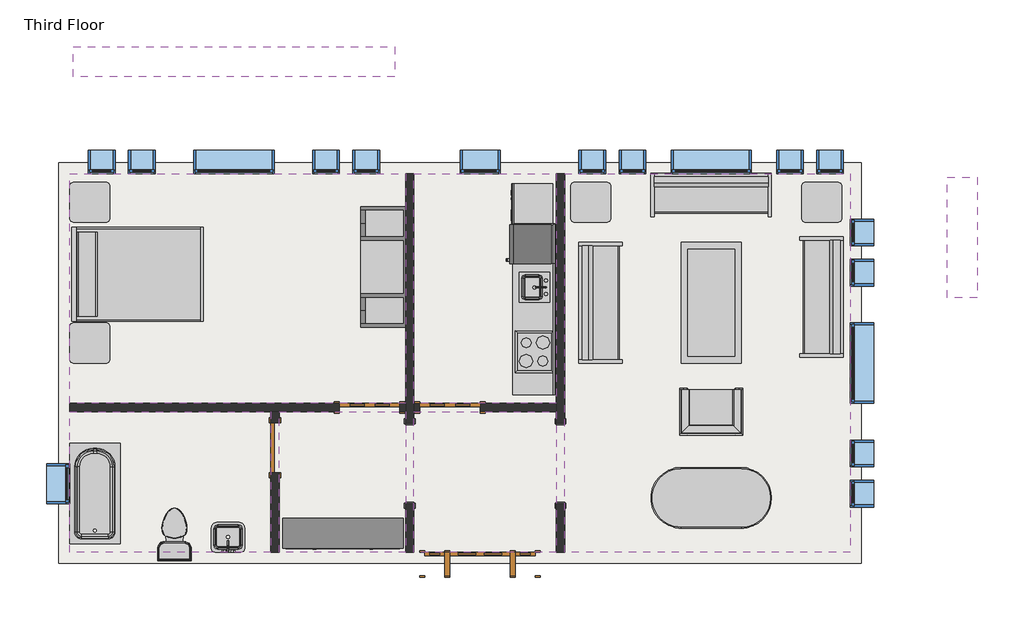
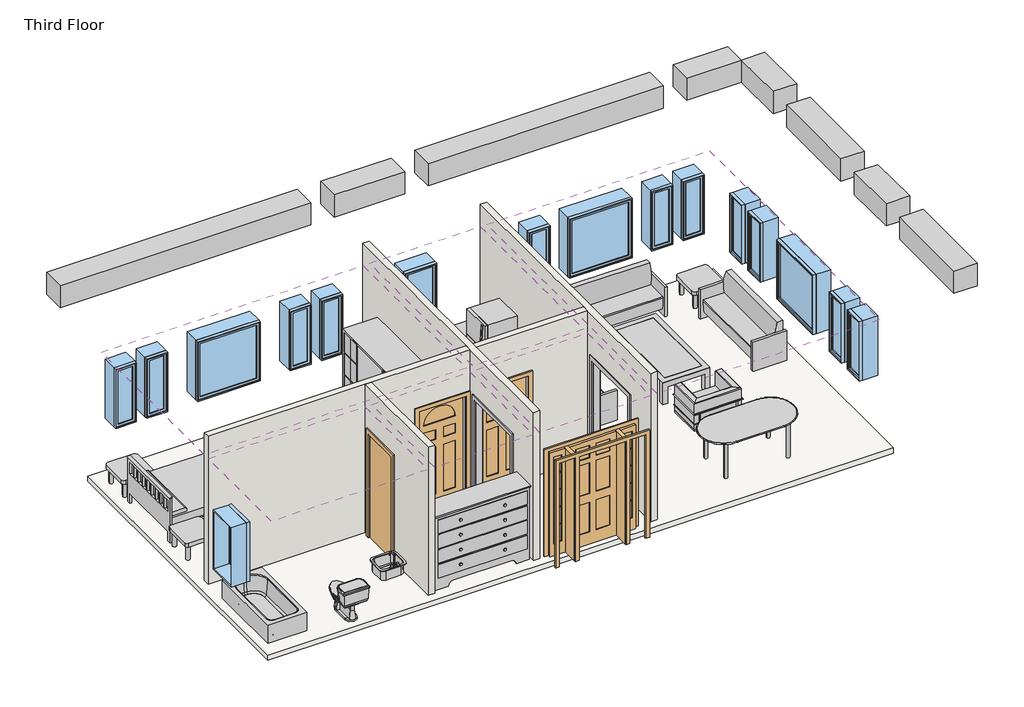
# One storey: 17 windows, 14 furniture elements, 6 coverings, 6 proxies, 5 walls, 4 doors, 4 flow terminals, 2 beams, 1 slab.
"""IFC4 building model written with IfcOpenShell, lengths in millimetres."""

from ifc_helpers import new_model, si_unit, frame, origin, place, context, project, spatial, polyline, outline, extrude, faceted_brep, transform, mapped, element, save
from components import proxy_dfcd9396, proxy_3c49123c, proxy_7a545507, proxy_f44482cc, proxy_ec3341c2, door_829da954, door_2e3b4da2, door_4d6c7550, door_dba5aa2e, flow_terminal_41332a36, flow_terminal_62a433f7, toilet_domestic_3d_toilet_domestic_3d_f7549cf7, toilet_domestic_3d_toilet_domestic_3d_183bbd19, tub_rectangular_3d_tub_rectangular_3d_15036965, furniture_096e7f55, chair_corbu_chair_corbu_2764bdef, furniture_6db689a5, furniture_7c473f12, furniture_cf0b6580, furniture_a4ffab56, furniture_cd93a443, furniture_2c34a4f9, furniture_3a588284, window_da97879f, window_d61ef850, window_60baf983, window_6eb97611

model = new_model("IFC4")

# Units and contexts
model_context = context("Model", 3, world=origin())
ifc_project = project(units=[si_unit("LENGTHUNIT", "METRE", prefix="MILLI")], contexts=[model_context])

# Site, building, storey
site = spatial("IfcSite", under=ifc_project)
building = spatial("IfcBuilding", under=site)
storey = spatial("IfcBuildingStorey", under=building, Name="Third Floor", Elevation=6096.0)

# Beams
placement = place(None, origin())
element("IfcBeam", 1, ObjectType="Concrete-Rectangular Beam : 18 x 18", at=placement, inside=storey, context=model_context, shape_type="SweptSolid", body=[
    extrude(outline(polyline([(2093.9410437, 12198.8316867), (2093.9410437, 11741.6316867), (1027.1410437, 11741.6316867), (1027.1410437, 12198.8316867), (2093.9410437, 12198.8316867)])), frame((0.0, 0.0, 8686.8), z_axis=(0.0, 0.0, 1.0), x_axis=(1.0, 0.0, 0.0)), (0.0, 0.0, 1.0), 457.2),
    extrude(outline(polyline([(-11164.8589563, 11741.6316867), (-11164.8589563, 12198.8316867), (-6288.0589563, 12198.8316867), (-6288.0589563, 11741.6316867), (-11164.8589563, 11741.6316867)])), frame((0.0, 0.0, 8686.8), z_axis=(0.0, 0.0, 1.0), x_axis=(1.0, 0.0, 0.0)), (0.0, 0.0, 1.0), 457.2),
    extrude(outline(polyline([(569.9410437, 12198.8316867), (569.9410437, 11741.6316867), (-4002.0589563, 11741.6316867), (-4002.0589563, 12198.8316867), (569.9410437, 12198.8316867)])), frame((0.0, 0.0, 8686.8), z_axis=(0.0, 0.0, 1.0), x_axis=(1.0, 0.0, 0.0)), (0.0, 0.0, 1.0), 457.2),
    extrude(outline(polyline([(-4459.2589563, 12198.8316867), (-4459.2589563, 11741.6316867), (-5830.8589563, 11741.6316867), (-5830.8589563, 12198.8316867), (-4459.2589563, 12198.8316867)])), frame((0.0, 0.0, 8686.8), z_axis=(0.0, 0.0, 1.0), x_axis=(1.0, 0.0, 0.0)), (0.0, 0.0, 1.0), 457.2),
])
element("IfcBeam", 2, ObjectType="Concrete-Rectangular Beam : 18 x 18", at=placement, inside=storey, context=model_context, shape_type="SweptSolid", body=[
    extrude(outline(polyline([(2093.9410437, 11741.6316867), (2551.1410437, 11741.6316867), (2551.1410437, 10674.8316867), (2093.9410437, 10674.8316867), (2093.9410437, 11741.6316867)])), frame((0.0, 0.0, 8686.8), z_axis=(0.0, 0.0, 1.0), x_axis=(1.0, 0.0, 0.0)), (0.0, 0.0, 1.0), 457.2),
    extrude(outline(polyline([(2551.1410437, 4578.8316867), (2093.9410437, 4578.8316867), (2093.9410437, 6407.6316867), (2551.1410437, 6407.6316867), (2551.1410437, 4578.8316867)])), frame((0.0, 0.0, 8686.8), z_axis=(0.0, 0.0, 1.0), x_axis=(1.0, 0.0, 0.0)), (0.0, 0.0, 1.0), 457.2),
    extrude(outline(polyline([(2093.9410437, 10217.6316867), (2551.1410437, 10217.6316867), (2551.1410437, 8388.8316867), (2093.9410437, 8388.8316867), (2093.9410437, 10217.6316867)])), frame((0.0, 0.0, 8686.8), z_axis=(0.0, 0.0, 1.0), x_axis=(1.0, 0.0, 0.0)), (0.0, 0.0, 1.0), 457.2),
    extrude(outline(polyline([(2093.9410437, 7931.6316867), (2551.1410437, 7931.6316867), (2551.1410437, 6864.8316867), (2093.9410437, 6864.8316867), (2093.9410437, 7931.6316867)])), frame((0.0, 0.0, 8686.8), z_axis=(0.0, 0.0, 1.0), x_axis=(1.0, 0.0, 0.0)), (0.0, 0.0, 1.0), 457.2),
])

# Proxies
proxy_shape = proxy_dfcd9396(model_context)
element("IfcBuildingElementProxy", 3, Name="Cook Top-4 Unit2 : 22\" x 20\"", ObjectType="Cook Top-4 Unit2 : 22\" x 20\"", at=placement, inside=storey, context=model_context, shape_type="MappedRepresentation", body=[
    mapped(proxy_shape, transform((-4167.1589563, 7568.5224391, 6096.0), x_axis=(0.0, 1.0000000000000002, 0.0), y_axis=(-1.0000000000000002, 0.0, 0.0), z_axis=(0.0, 0.0, 1.0))),
])
proxy_2_shape = proxy_3c49123c(model_context)
element("IfcBuildingElementProxy", 4, Name="Dishwasher : 24\" x 24\" x 34\"", ObjectType="Dishwasher : 24\" x 24\" x 34\"", at=placement, inside=storey, context=model_context, shape_type="MappedRepresentation", body=[
    mapped(proxy_2_shape, transform((-4459.0085211, 9434.1049706, 6096.0), x_axis=(0.0, 1.0000000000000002, 0.0), y_axis=(-1.0000000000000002, 0.0, 0.0), z_axis=(0.0, 0.0, 1.0))),
])
proxy_3_shape = proxy_7a545507(model_context)
element("IfcBuildingElementProxy", 5, Name="Kitchenette - Medium : 8'6\"", ObjectType="Kitchenette - Medium : 8'6\"", at=placement, inside=storey, context=model_context, shape_type="MappedRepresentation", body=[
    mapped(proxy_3_shape, transform((-3862.3589563, 8197.4847342, 6096.0), x_axis=(0.0, 1.0000000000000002, 0.0), y_axis=(-1.0000000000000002, 0.0, 0.0), z_axis=(0.0, 0.0, 1.0))),
])
proxy_4_shape = proxy_f44482cc(model_context)
element("IfcBuildingElementProxy", 6, Name="Opening-Cased : 48\" x 84\"", ObjectType="Opening-Cased : 48\" x 84\"", at=placement, inside=storey, context=model_context, shape_type="MappedRepresentation", body=[
    mapped(proxy_4_shape, transform((-3773.4589563, 5882.4203434, 6096.0), x_axis=(0.0, 1.0, 0.0), y_axis=(-1.0, 0.0, 0.0), z_axis=(0.0, 0.0, 1.0))),
])
element("IfcBuildingElementProxy", 7, Name="Opening-Cased : 48\" x 84\"", ObjectType="Opening-Cased : 48\" x 84\"", at=placement, inside=storey, context=model_context, shape_type="MappedRepresentation", body=[
    mapped(proxy_4_shape, transform((-6059.4589563, 5866.04303, 6096.0), x_axis=(0.0, -1.0, 0.0), y_axis=(1.0, 0.0, 0.0), z_axis=(0.0, 0.0, 1.0))),
])
proxy_5_shape = proxy_ec3341c2(model_context)
element("IfcBuildingElementProxy", 8, Name="Refrigerator : 24\" x 25\" LH", ObjectType="Refrigerator : 24\" x 25\" LH", at=placement, inside=storey, context=model_context, shape_type="MappedRepresentation", body=[
    mapped(proxy_5_shape, transform((-4212.8079278, 9200.4724391, 6096.0), x_axis=(0.0, 1.0000000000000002, 0.0), y_axis=(-1.0000000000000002, 0.0, 0.0), z_axis=(0.0, 0.0, 1.0))),
])

# Coverings
element("IfcCovering", 9, ObjectType="GWB on Mtl. Stud", at=placement, inside=storey, context=model_context, shape_type="SweptSolid", body=[
    extrude(outline(polyline([(-11217.2464563, 10270.0191867), (-6122.9589563, 10270.0191867), (-6122.9589563, 6787.0441867), (-11217.2464563, 6787.0441867), (-11217.2464563, 10270.0191867)])), frame((0.0, 0.0, 8686.8), z_axis=(0.0, 0.0, 1.0), x_axis=(1.0, 0.0, 0.0)), (0.0, 0.0, 1.0), 107.95),
])
element("IfcCovering", 10, ObjectType="GWB on Mtl. Stud", at=placement, inside=storey, context=model_context, shape_type="SweptSolid", body=[
    extrude(outline(polyline([(-5995.9589563, 6787.0441867), (-5995.9589563, 10270.0191867), (-3836.9589563, 10270.0191867), (-3836.9589563, 6787.0441867), (-5995.9589563, 6787.0441867)])), frame((0.0, 0.0, 8686.8), z_axis=(0.0, 0.0, 1.0), x_axis=(1.0, 0.0, 0.0)), (0.0, 0.0, 1.0), 107.95),
])
element("IfcCovering", 11, ObjectType="GWB on Mtl. Stud", at=placement, inside=storey, context=model_context, shape_type="SweptSolid", body=[
    extrude(outline(polyline([(-3709.9589563, 4526.4441867), (-3709.9589563, 10270.0191867), (622.3285437, 10270.0191867), (622.3285437, 4526.4441867), (-3709.9589563, 4526.4441867)])), frame((0.0, 0.0, 8686.8), z_axis=(0.0, 0.0, 1.0), x_axis=(1.0, 0.0, 0.0)), (0.0, 0.0, 1.0), 107.95),
])
element("IfcCovering", 12, ObjectType="GWB on Mtl. Stud", at=placement, inside=storey, context=model_context, shape_type="SweptSolid", body=[
    extrude(outline(polyline([(-3836.9589563, 4526.4441867), (-5995.9589563, 4526.4441867), (-5995.9589563, 6660.0441867), (-3836.9589563, 6660.0441867), (-3836.9589563, 4526.4441867)])), frame((0.0, 0.0, 8686.8), z_axis=(0.0, 0.0, 1.0), x_axis=(1.0, 0.0, 0.0)), (0.0, 0.0, 1.0), 107.95),
])
element("IfcCovering", 13, ObjectType="GWB on Mtl. Stud", at=placement, inside=storey, context=model_context, shape_type="SweptSolid", body=[
    extrude(outline(polyline([(-8169.2464563, 6660.0441867), (-8169.2464563, 4526.4441867), (-11217.2464563, 4526.4441867), (-11217.2464563, 6660.0441867), (-8169.2464563, 6660.0441867)])), frame((0.0, 0.0, 8686.8), z_axis=(0.0, 0.0, 1.0), x_axis=(1.0, 0.0, 0.0)), (0.0, 0.0, 1.0), 107.95),
])
element("IfcCovering", 14, ObjectType="GWB on Mtl. Stud", at=placement, inside=storey, context=model_context, shape_type="SweptSolid", body=[
    extrude(outline(polyline([(-6122.9589563, 4526.4441867), (-8042.2464563, 4526.4441867), (-8042.2464563, 6660.0441867), (-6122.9589563, 6660.0441867), (-6122.9589563, 4526.4441867)])), frame((0.0, 0.0, 8686.8), z_axis=(0.0, 0.0, 1.0), x_axis=(1.0, 0.0, 0.0)), (0.0, 0.0, 1.0), 107.95),
])

# Doors
door_shape = door_829da954(model_context)
element("IfcDoor", 15, ObjectType="Single-Decorative 2 : 36\" x 84\"", at=placement, inside=storey, context=model_context, shape_type="MappedRepresentation", body=[
    mapped(door_shape, transform((-5449.8589563, 6723.5441867, 6096.0), x_axis=(-1.0, 0.0, 0.0), y_axis=(0.0, -1.0, 0.0), z_axis=(0.0, 0.0, 1.0))),
])
door_2_shape = door_2e3b4da2(model_context)
element("IfcDoor", 16, ObjectType="Single-Decorative 2 : 36\" x 84\"", at=placement, inside=storey, context=model_context, shape_type="MappedRepresentation", body=[
    mapped(door_2_shape, transform((-6669.0589563, 6723.5441867, 6096.0), x_axis=(1.0, 0.0, 0.0), y_axis=(0.0, 1.0, 0.0), z_axis=(0.0, 0.0, 1.0))),
])
door_3_shape = door_4d6c7550(model_context)
element("IfcDoor", 17, ObjectType="Single-Flush : 30\" x 84\"", at=placement, inside=storey, context=model_context, shape_type="MappedRepresentation", body=[
    mapped(door_3_shape, transform((-8105.7464563, 6113.9441867, 6096.0), x_axis=(0.0, 1.0, 0.0), y_axis=(-1.0, 0.0, 0.0), z_axis=(0.0, 0.0, 1.0))),
])
door_4_shape = door_dba5aa2e(model_context)
element("IfcDoor", 18, ObjectType="Single-Raised Panel with Sidelights : 36\" x 84\"", at=placement, inside=storey, context=model_context, shape_type="MappedRepresentation", body=[
    mapped(door_4_shape, transform((-4992.6589563, 4350.2316867, 6096.0), x_axis=(-1.0, 0.0, 0.0), y_axis=(0.0, -1.0, 0.0), z_axis=(0.0, 0.0, 1.0))),
])

# Flow terminals
flow_terminal_shape = flow_terminal_41332a36(model_context)
element("IfcFlowTerminal", 19, ObjectType="Sink Kitchen-Island : 18\" x 18\"", at=placement, inside=storey, context=model_context, shape_type="MappedRepresentation", body=[
    mapped(flow_terminal_shape, transform((-4169.5043574, 8530.7331986, 6081.6), x_axis=(0.0, 1.0000000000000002, 0.0), y_axis=(-1.0000000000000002, 0.0, 0.0), z_axis=(0.0, 0.0, 1.0))),
])
flow_terminal_2_shape = flow_terminal_62a433f7(model_context)
element("IfcFlowTerminal", 20, ObjectType="Sink Vanity-Square : 20\" x 18\"", at=placement, inside=storey, context=model_context, shape_type="MappedRepresentation", body=[
    mapped(flow_terminal_2_shape, transform((-8801.2572158, 4706.5895878, 6096.0), x_axis=(-1.0, 0.0, 0.0), y_axis=(0.0, -1.0, 0.0), z_axis=(0.0, 0.0, 1.0))),
])
toilet_domestic_3d_toilet_domestic_3d_shape = toilet_domestic_3d_toilet_domestic_3d_f7549cf7(model_context)
toilet_domestic_3d_toilet_domestic_3d_2_shape = toilet_domestic_3d_toilet_domestic_3d_183bbd19(model_context)
element("IfcFlowTerminal", 21, ObjectType="Toilet-Domestic-3D : Toilet-Domestic-3D", at=placement, inside=storey, context=model_context, shape_type="MappedRepresentation", body=[
    mapped(toilet_domestic_3d_toilet_domestic_3d_shape, transform((-9629.7464563, 4894.7441867, 6096.0), x_axis=(-1.0, 0.0, 0.0), y_axis=(0.0, -1.0, 0.0), z_axis=(0.0, 0.0, 1.0))),
    mapped(toilet_domestic_3d_toilet_domestic_3d_2_shape, transform((-9629.7464563, 4894.7441867, 6096.0), x_axis=(-1.0, 0.0, 0.0), y_axis=(0.0, -1.0, 0.0), z_axis=(0.0, 0.0, 1.0))),
])
tub_rectangular_3d_tub_rectangular_3d_shape = tub_rectangular_3d_tub_rectangular_3d_15036965(model_context)
element("IfcFlowTerminal", 22, ObjectType="Tub-Rectangular-3D : Tub-Rectangular-3D", at=placement, inside=storey, context=model_context, shape_type="MappedRepresentation", body=[
    mapped(tub_rectangular_3d_tub_rectangular_3d_shape, transform((-11393.4589563, 5765.6346554, 6096.0), x_axis=(0.0, 1.0, 0.0), y_axis=(-1.0, 0.0, 0.0), z_axis=(0.0, 0.0, 1.0))),
])

# Furniture
furniture_shape = furniture_096e7f55(model_context)
element("IfcFurniture", 23, ObjectType="Bed-Shaker : Double 56\" x 78\"", at=placement, inside=storey, context=model_context, shape_type="MappedRepresentation", body=[
    mapped(furniture_shape, transform((-11172.0857802, 8763.4816867, 6096.0), x_axis=(0.0, 1.0, 0.0), y_axis=(-1.0, 0.0, 0.0), z_axis=(0.0, 0.0, 1.0))),
])
chair_corbu_chair_corbu_shape = chair_corbu_chair_corbu_2764bdef(model_context)
element("IfcFurniture", 24, ObjectType="Chair-Corbu : Chair-Corbu", at=placement, inside=storey, context=model_context, shape_type="MappedRepresentation", body=[
    mapped(chair_corbu_chair_corbu_shape, transform((-914.0851858, 7126.8212359, 6096.0), x_axis=(-1.0, 0.0, 0.0), y_axis=(0.0, -1.0, 0.0), z_axis=(0.0, 0.0, 1.0))),
])
furniture_2_shape = furniture_6db689a5(model_context)
element("IfcFurniture", 25, ObjectType="Counter Top w Sink Hole : 24\" Depth", at=placement, inside=storey, context=model_context, shape_type="MappedRepresentation", body=[
    mapped(furniture_2_shape, transform((-3862.3589563, 8121.2847342, 6081.6), x_axis=(0.0, 1.0000000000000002, 0.0), y_axis=(-1.0000000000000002, 0.0, 0.0), z_axis=(0.0, 0.0, 1.0))),
])
furniture_3_shape = furniture_7c473f12(model_context)
element("IfcFurniture", 26, ObjectType="Dresser : 72\" x 60\" x 18\"", at=placement, inside=storey, context=model_context, shape_type="MappedRepresentation", body=[
    mapped(furniture_3_shape, transform((-6806.2656965, 5181.7071408, 6096.0), x_axis=(1.0, 0.0, 0.0), y_axis=(0.0, 1.0, 0.0), z_axis=(0.0, 0.0, 1.0))),
])
furniture_4_shape = furniture_cf0b6580(model_context)
element("IfcFurniture", 27, ObjectType="Entertainment Center : 72\" x 72\" x 24\"", at=placement, inside=storey, context=model_context, shape_type="MappedRepresentation", body=[
    mapped(furniture_4_shape, transform((-6021.3589563, 8857.1441867, 6096.0), x_axis=(0.0, -1.0, 0.0), y_axis=(1.0, 0.0, 0.0), z_axis=(0.0, 0.0, 1.0))),
])
furniture_5_shape = furniture_a4ffab56(model_context)
element("IfcFurniture", 28, ObjectType="Sofa : 72\"", at=placement, inside=storey, context=model_context, shape_type="MappedRepresentation", body=[
    mapped(furniture_5_shape, transform((-3017.704858, 8242.2611949, 6096.0), x_axis=(0.0, 1.0, 0.0), y_axis=(-1.0, 0.0, 0.0), z_axis=(0.0, 0.0, 1.0))),
])
element("IfcFurniture", 29, ObjectType="Sofa : 72\"", at=placement, inside=storey, context=model_context, shape_type="MappedRepresentation", body=[
    mapped(furniture_5_shape, transform((-1557.8294481, 9801.5748071, 6096.0), x_axis=(1.0, 0.0, 0.0), y_axis=(0.0, 1.0, 0.0), z_axis=(0.0, 0.0, 1.0))),
])
element("IfcFurniture", 30, ObjectType="Sofa : 72\"", at=placement, inside=storey, context=model_context, shape_type="MappedRepresentation", body=[
    mapped(furniture_5_shape, transform((42.7869453, 8470.3146785, 6096.0), x_axis=(0.0, -1.0, 0.0), y_axis=(1.0, 0.0, 0.0), z_axis=(0.0, 0.0, 1.0))),
])
furniture_6_shape = furniture_cd93a443(model_context)
element("IfcFurniture", 31, ObjectType="Table-Coffee : 36\" x 72\" x 18\"", at=placement, inside=storey, context=model_context, shape_type="MappedRepresentation", body=[
    mapped(furniture_6_shape, transform((-1392.2478785, 8294.36592, 6096.0), x_axis=(0.0, 1.0, 0.0), y_axis=(-1.0, 0.0, 0.0), z_axis=(0.0, 0.0, 1.0))),
])
furniture_7_shape = furniture_2c34a4f9(model_context)
element("IfcFurniture", 32, ObjectType="Table-Dining Oval : 36\" x 72\"", at=placement, inside=storey, context=model_context, shape_type="MappedRepresentation", body=[
    mapped(furniture_7_shape, transform((-1085.6392842, 5710.0425473, 6096.0), x_axis=(1.0, 0.0, 0.0), y_axis=(0.0, 1.0, 0.0), z_axis=(0.0, 0.0, 1.0))),
])
furniture_8_shape = furniture_3a588284(model_context)
element("IfcFurniture", 33, ObjectType="Table-End : 24\" x 24\"", at=placement, inside=storey, context=model_context, shape_type="MappedRepresentation", body=[
    mapped(furniture_8_shape, transform((-119.5925866, 9684.2316867, 6096.0), x_axis=(1.0, 0.0, 0.0), y_axis=(0.0, 1.0, 0.0), z_axis=(0.0, 0.0, 1.0))),
])
element("IfcFurniture", 34, ObjectType="Table-End : 24\" x 24\"", at=placement, inside=storey, context=model_context, shape_type="MappedRepresentation", body=[
    mapped(furniture_8_shape, transform((-11220.9800866, 7550.6316867, 6096.0), x_axis=(1.0, 0.0, 0.0), y_axis=(0.0, 1.0, 0.0), z_axis=(0.0, 0.0, 1.0))),
])
element("IfcFurniture", 35, ObjectType="Table-End : 24\" x 24\"", at=placement, inside=storey, context=model_context, shape_type="MappedRepresentation", body=[
    mapped(furniture_8_shape, transform((-11220.9800866, 9684.2316867, 6096.0), x_axis=(1.0, 0.0, 0.0), y_axis=(0.0, 1.0, 0.0), z_axis=(0.0, 0.0, 1.0))),
])
element("IfcFurniture", 36, ObjectType="Table-End : 24\" x 24\"", at=placement, inside=storey, context=model_context, shape_type="MappedRepresentation", body=[
    mapped(furniture_8_shape, transform((-3624.7925866, 9684.2316867, 6096.0), x_axis=(1.0, 0.0, 0.0), y_axis=(0.0, 1.0, 0.0), z_axis=(0.0, 0.0, 1.0))),
])

# Slab
element("IfcSlab", 37, ObjectType="LW Concrete on Metal Deck", at=placement, inside=storey, context=model_context, shape_type="SweptSolid", body=[
    extrude(outline(polyline([(787.4285437, 10435.1191867), (787.4285437, 4361.3441867), (-11382.3464563, 4361.3441867), (-11382.3464563, 10435.1191867), (787.4285437, 10435.1191867)])), frame((0.0, 0.0, 5991.225), z_axis=(0.0, 0.0, 1.0), x_axis=(1.0, 0.0, 0.0)), (0.0, 0.0, 1.0), 104.775),
])

# Walls
element("IfcWall", 38, ObjectType="Interior - 5\" Partition (2-hr)", at=placement, inside=storey, context=model_context, shape_type="Brep", body=[
    faceted_brep([(-3709.9589563, 10270.0191867, 6096.0), (-3709.9589563, 6483.8316867, 6096.0), (-3836.9589563, 6483.8316867, 6096.0), (-3836.9589563, 6660.0441867, 6096.0), (-3836.9589563, 6787.0441867, 6096.0), (-3836.9589563, 10270.0191867, 6096.0), (-3709.9589563, 5264.6316867, 6096.0), (-3709.9589563, 4526.4441867, 6096.0), (-3836.9589563, 4526.4441867, 6096.0), (-3836.9589563, 5264.6316867, 6096.0), (-3836.9589563, 10270.0191867, 9144.0), (-3836.9589563, 6787.0441867, 9144.0), (-3836.9589563, 6660.0441867, 9144.0), (-3836.9589563, 4526.4441867, 9144.0), (-3709.9589563, 4526.4441867, 9144.0), (-3709.9589563, 10270.0191867, 9144.0), (-3836.9589563, 6483.8316867, 8229.6), (-3836.9589563, 5264.6316867, 8229.6), (-3709.9589563, 6483.8316867, 8229.6), (-3709.9589563, 5264.6316867, 8229.6)], [[[0, 1, 2, 3, 4, 5]], [[6, 7, 8, 9]], [[10, 11, 12, 13, 14, 15]], [[5, 4, 3, 2, 16, 17, 9, 8, 13, 12, 11, 10]], [[18, 1, 0, 15, 14, 7, 6, 19]], [[5, 10, 15, 0]], [[13, 8, 7, 14]], [[9, 17, 19, 6]], [[16, 2, 1, 18]], [[17, 16, 18, 19]]]),
])
element("IfcWall", 39, ObjectType="Interior - 5\" Partition (2-hr)", at=placement, inside=storey, context=model_context, shape_type="Brep", body=[
    faceted_brep([(-6122.9589563, 4526.4441867, 6096.0), (-6122.9589563, 5264.6316867, 6096.0), (-5995.9589563, 5264.6316867, 6096.0), (-5995.9589563, 4526.4441867, 6096.0), (-6122.9589563, 6483.8316867, 6096.0), (-6122.9589563, 6660.0441867, 6096.0), (-6122.9589563, 6787.0441867, 6096.0), (-6122.9589563, 10270.0191867, 6096.0), (-5995.9589563, 10270.0191867, 6096.0), (-5995.9589563, 6787.0441867, 6096.0), (-5995.9589563, 6660.0441867, 6096.0), (-5995.9589563, 6483.8316867, 6096.0), (-6122.9589563, 10270.0191867, 9144.0), (-6122.9589563, 6787.0441867, 9144.0), (-6122.9589563, 6660.0441867, 9144.0), (-6122.9589563, 4526.4441867, 9144.0), (-5995.9589563, 4526.4441867, 9144.0), (-5995.9589563, 6660.0441867, 9144.0), (-5995.9589563, 6787.0441867, 9144.0), (-5995.9589563, 10270.0191867, 9144.0), (-6122.9589563, 5264.6316867, 8229.6), (-6122.9589563, 6483.8316867, 8229.6), (-5995.9589563, 5264.6316867, 8229.6), (-5995.9589563, 6483.8316867, 8229.6)], [[[0, 1, 2, 3]], [[4, 5, 6, 7, 8, 9, 10, 11]], [[12, 13, 14, 15, 16, 17, 18, 19]], [[20, 1, 0, 15, 14, 13, 12, 7, 6, 5, 4, 21]], [[3, 2, 22, 23, 11, 10, 9, 8, 19, 18, 17, 16]], [[7, 12, 19, 8]], [[15, 0, 3, 16]], [[11, 23, 21, 4]], [[22, 2, 1, 20]], [[23, 22, 20, 21]]]),
])
element("IfcWall", 40, ObjectType="Interior - 5\" Partition (2-hr)", at=placement, inside=storey, context=model_context, shape_type="Brep", body=[
    faceted_brep([(-6122.9589563, 6660.0441867, 6096.0), (-6211.8589563, 6660.0441867, 6096.0), (-6211.8589563, 6787.0441867, 6096.0), (-6122.9589563, 6787.0441867, 6096.0), (-7126.2589563, 6660.0441867, 6096.0), (-8042.2464563, 6660.0441867, 6096.0), (-8169.2464563, 6660.0441867, 6096.0), (-11217.2464563, 6660.0441867, 6096.0), (-11217.2464563, 6787.0441867, 6096.0), (-7126.2589563, 6787.0441867, 6096.0), (-11217.2464563, 6660.0441867, 9144.0), (-8169.2464563, 6660.0441867, 9144.0), (-8042.2464563, 6660.0441867, 9144.0), (-6122.9589563, 6660.0441867, 9144.0), (-6122.9589563, 6787.0441867, 9144.0), (-11217.2464563, 6787.0441867, 9144.0), (-6211.8589563, 6660.0441867, 8229.6), (-7126.2589563, 6660.0441867, 8229.6), (-6211.8589563, 6787.0441867, 8229.6), (-7126.2589563, 6787.0441867, 8229.6)], [[[0, 1, 2, 3]], [[4, 5, 6, 7, 8, 9]], [[10, 11, 12, 13, 14, 15]], [[16, 1, 0, 13, 12, 11, 10, 7, 6, 5, 4, 17]], [[3, 2, 18, 19, 9, 8, 15, 14]], [[13, 0, 3, 14]], [[7, 10, 15, 8]], [[18, 2, 1, 16]], [[19, 18, 16, 17]], [[9, 19, 17, 4]]]),
])
element("IfcWall", 41, ObjectType="Interior - 5\" Partition (2-hr)", at=placement, inside=storey, context=model_context, shape_type="SweptSolid", body=[
    extrude(outline(polyline([(6660.0441867, 6096.0), (6494.9441867, 6096.0), (6494.9441867, 8229.6), (5732.9441867, 8229.6), (5732.9441867, 6096.0), (4526.4441867, 6096.0), (4526.4441867, 9144.0), (6660.0441867, 9144.0), (6660.0441867, 6096.0)])), frame((-8169.2464563, 0.0, 0.0), z_axis=(1.0, 0.0, 0.0), x_axis=(0.0, 1.0, 0.0)), (0.0, 0.0, 1.0), 127.0),
])
element("IfcWall", 42, ObjectType="Interior - 5\" Partition (2-hr)", at=placement, inside=storey, context=model_context, shape_type="SweptSolid", body=[
    extrude(outline(polyline([(6096.0, -5995.9589563), (6096.0, -5907.0589563), (8229.6, -5907.0589563), (8229.6, -4992.6589563), (6096.0, -4992.6589563), (6096.0, -3836.9589563), (9144.0, -3836.9589563), (9144.0, -5995.9589563), (6096.0, -5995.9589563)])), frame((0.0, 6660.0441867, 0.0), z_axis=(0.0, 1.0, 0.0), x_axis=(0.0, 0.0, 1.0)), (0.0, 0.0, 1.0), 127.0),
])

# Windows
window_shape = window_da97879f(model_context)
element("IfcWindow", 43, ObjectType="Fixed : 16\" x 48\"", at=placement, inside=storey, context=model_context, shape_type="MappedRepresentation", body=[
    mapped(window_shape, transform((-10771.1589563, 10446.2316867, 6096.0), x_axis=(-1.0, 0.0, 0.0), y_axis=(0.0, -1.0, 0.0), z_axis=(0.0, 0.0, 1.0))),
])
element("IfcWindow", 44, ObjectType="Fixed : 16\" x 48\"", at=placement, inside=storey, context=model_context, shape_type="MappedRepresentation", body=[
    mapped(window_shape, transform((-10161.5589563, 10446.2316867, 6096.0), x_axis=(-1.0, 0.0, 0.0), y_axis=(0.0, -1.0, 0.0), z_axis=(0.0, 0.0, 1.0))),
])
element("IfcWindow", 45, ObjectType="Fixed : 16\" x 48\"", at=placement, inside=storey, context=model_context, shape_type="MappedRepresentation", body=[
    mapped(window_shape, transform((-3328.9589563, 10446.2316867, 6096.0), x_axis=(-1.0, 0.0, 0.0), y_axis=(0.0, -1.0, 0.0), z_axis=(0.0, 0.0, 1.0))),
])
element("IfcWindow", 46, ObjectType="Fixed : 16\" x 48\"", at=placement, inside=storey, context=model_context, shape_type="MappedRepresentation", body=[
    mapped(window_shape, transform((-2719.3589563, 10446.2316867, 6096.0), x_axis=(-1.0, 0.0, 0.0), y_axis=(0.0, -1.0, 0.0), z_axis=(0.0, 0.0, 1.0))),
])
element("IfcWindow", 47, ObjectType="Fixed : 16\" x 48\"", at=placement, inside=storey, context=model_context, shape_type="MappedRepresentation", body=[
    mapped(window_shape, transform((798.5410437, 9417.5316867, 6096.0), x_axis=(0.0, 1.0, 0.0), y_axis=(-1.0, 0.0, 0.0), z_axis=(0.0, 0.0, 1.0))),
])
element("IfcWindow", 48, ObjectType="Fixed : 16\" x 48\"", at=placement, inside=storey, context=model_context, shape_type="MappedRepresentation", body=[
    mapped(window_shape, transform((798.5410437, 8807.9316867, 6096.0), x_axis=(0.0, 1.0, 0.0), y_axis=(-1.0, 0.0, 0.0), z_axis=(0.0, 0.0, 1.0))),
])
window_2_shape = window_d61ef850(model_context)
element("IfcWindow", 49, ObjectType="Fixed : 16\" x 48\"", at=placement, inside=storey, context=model_context, shape_type="MappedRepresentation", body=[
    mapped(window_2_shape, transform((-6681.7589563, 10446.2316867, 6096.0), x_axis=(1.0, 0.0, 0.0), y_axis=(0.0, 1.0, 0.0), z_axis=(0.0, 0.0, 1.0))),
])
element("IfcWindow", 50, ObjectType="Fixed : 16\" x 48\"", at=placement, inside=storey, context=model_context, shape_type="MappedRepresentation", body=[
    mapped(window_2_shape, transform((-7291.3589563, 10446.2316867, 6096.0), x_axis=(1.0, 0.0, 0.0), y_axis=(0.0, 1.0, 0.0), z_axis=(0.0, 0.0, 1.0))),
])
element("IfcWindow", 51, ObjectType="Fixed : 16\" x 48\"", at=placement, inside=storey, context=model_context, shape_type="MappedRepresentation", body=[
    mapped(window_2_shape, transform((354.0410437, 10446.2316867, 6096.0), x_axis=(1.0, 0.0, 0.0), y_axis=(0.0, 1.0, 0.0), z_axis=(0.0, 0.0, 1.0))),
])
element("IfcWindow", 52, ObjectType="Fixed : 16\" x 48\"", at=placement, inside=storey, context=model_context, shape_type="MappedRepresentation", body=[
    mapped(window_2_shape, transform((-255.5589563, 10446.2316867, 6096.0), x_axis=(1.0, 0.0, 0.0), y_axis=(0.0, 1.0, 0.0), z_axis=(0.0, 0.0, 1.0))),
])
element("IfcWindow", 53, ObjectType="Fixed : 16\" x 48\"", at=placement, inside=storey, context=model_context, shape_type="MappedRepresentation", body=[
    mapped(window_2_shape, transform((798.5410437, 5378.9316867, 6096.0), x_axis=(0.0, -1.0, 0.0), y_axis=(1.0, 0.0, 0.0), z_axis=(0.0, 0.0, 1.0))),
])
element("IfcWindow", 54, ObjectType="Fixed : 16\" x 48\"", at=placement, inside=storey, context=model_context, shape_type="MappedRepresentation", body=[
    mapped(window_2_shape, transform((798.5410437, 5988.5316867, 6096.0), x_axis=(0.0, -1.0, 0.0), y_axis=(1.0, 0.0, 0.0), z_axis=(0.0, 0.0, 1.0))),
])
window_3_shape = window_60baf983(model_context)
element("IfcWindow", 55, ObjectType="Fixed : 24\" x 48\"", at=placement, inside=storey, context=model_context, shape_type="MappedRepresentation", body=[
    mapped(window_3_shape, transform((-5030.7589563, 10446.2316867, 6096.0), x_axis=(-1.0, 0.0, 0.0), y_axis=(0.0, -1.0, 0.0), z_axis=(0.0, 0.0, 1.0))),
])
element("IfcWindow", 56, ObjectType="Fixed : 24\" x 48\"", at=placement, inside=storey, context=model_context, shape_type="MappedRepresentation", body=[
    mapped(window_3_shape, transform((-11393.4589563, 5531.3316867, 6096.0), x_axis=(0.0, -1.0, 0.0), y_axis=(1.0, 0.0, 0.0), z_axis=(0.0, 0.0, 1.0))),
])
window_4_shape = window_6eb97611(model_context)
element("IfcWindow", 57, ObjectType="Fixed : 48\" x 48\"", at=placement, inside=storey, context=model_context, shape_type="MappedRepresentation", body=[
    mapped(window_4_shape, transform((-8764.5589563, 10446.2316867, 6096.0), x_axis=(-1.0, 0.0, 0.0), y_axis=(0.0, -1.0, 0.0), z_axis=(0.0, 0.0, 1.0))),
])
element("IfcWindow", 58, ObjectType="Fixed : 48\" x 48\"", at=placement, inside=storey, context=model_context, shape_type="MappedRepresentation", body=[
    mapped(window_4_shape, transform((-1525.5589563, 10446.2316867, 6096.0), x_axis=(-1.0, 0.0, 0.0), y_axis=(0.0, -1.0, 0.0), z_axis=(0.0, 0.0, 1.0))),
])
element("IfcWindow", 59, ObjectType="Fixed : 48\" x 48\"", at=placement, inside=storey, context=model_context, shape_type="MappedRepresentation", body=[
    mapped(window_4_shape, transform((798.5410437, 7436.3316867, 6096.0), x_axis=(0.0, 1.0, 0.0), y_axis=(-1.0, 0.0, 0.0), z_axis=(0.0, 0.0, 1.0))),
])

save(model, "model.ifc")
